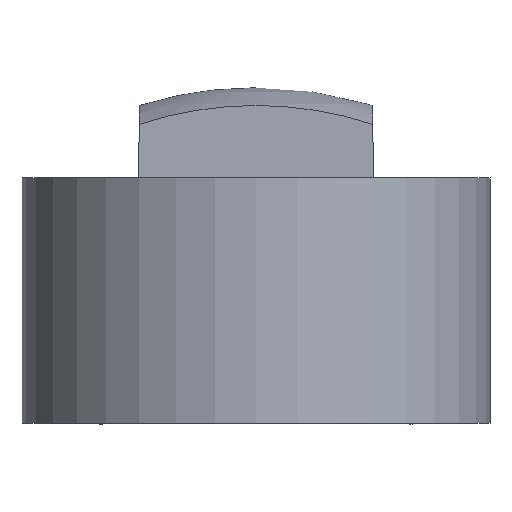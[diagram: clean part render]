
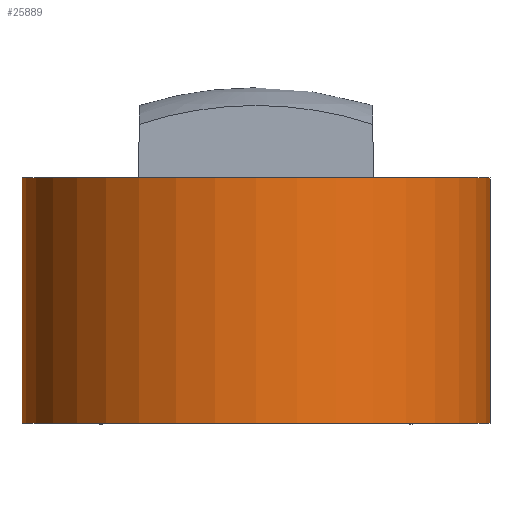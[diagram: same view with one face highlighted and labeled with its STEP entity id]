
A CAD part, front view. The second image highlights one B-rep face of the part: STEP entity #25889.
In plain terms, the highlighted cylindrical face has radius 10.5 mm (diameter 21 mm), a full revolution.
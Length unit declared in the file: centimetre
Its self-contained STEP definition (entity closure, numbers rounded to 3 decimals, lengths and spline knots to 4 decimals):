
#888=CYLINDRICAL_SURFACE($,#27273,1.05);
#1193=FACE_BOUND($,#7571,.T.);
#6208=FACE_OUTER_BOUND($,#7570,.T.);
#7570=EDGE_LOOP($,(#16046));
#7571=EDGE_LOOP($,(#16047));
#9021=CIRCLE($,#27264,1.05);
#9025=CIRCLE($,#27272,1.05);
#9727=VERTEX_POINT($,#35753);
#9731=VERTEX_POINT($,#35765);
#12227=EDGE_CURVE($,#9727,#9727,#9021,.T.);
#12231=EDGE_CURVE($,#9731,#9731,#9025,.T.);
#16046=ORIENTED_EDGE($,*,*,#12231,.T.);
#16047=ORIENTED_EDGE($,*,*,#12227,.T.);
#25889=ADVANCED_FACE($,(#6208,#1193),#888,.T.);
#27264=AXIS2_PLACEMENT_3D($,#35754,#29290,#29291);
#27272=AXIS2_PLACEMENT_3D($,#35766,#29306,#29307);
#27273=AXIS2_PLACEMENT_3D($,#35767,#29308,#29309);
#29290=DIRECTION('center_axis',(0.,0.,
-1.));
#29291=DIRECTION('ref_axis',(1.,0.,0.));
#29306=DIRECTION('center_axis',(0.,0.,
1.));
#29307=DIRECTION('ref_axis',(1.,0.,0.));
#29308=DIRECTION('center_axis',(0.,0.,
-1.));
#29309=DIRECTION('ref_axis',(1.,0.,0.));
#35753=CARTESIAN_POINT('',(-1.05,0.,1.1));
#35754=CARTESIAN_POINT('Origin',(0.,0.,
1.1));
#35765=CARTESIAN_POINT('',(-1.05,0.,0.));
#35766=CARTESIAN_POINT('Origin',(0.,0.,
0.));
#35767=CARTESIAN_POINT('Origin',(0.,0.,
1.1));
